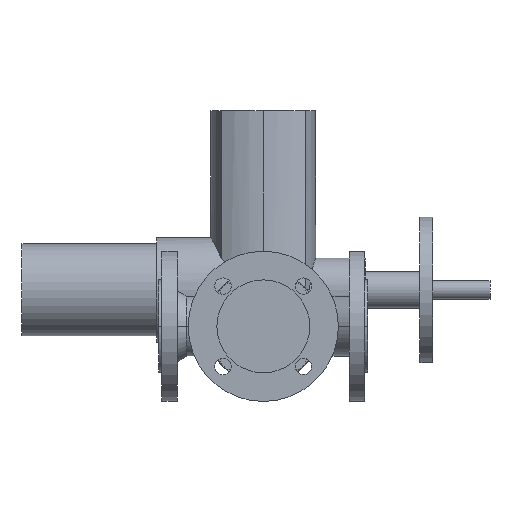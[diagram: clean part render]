
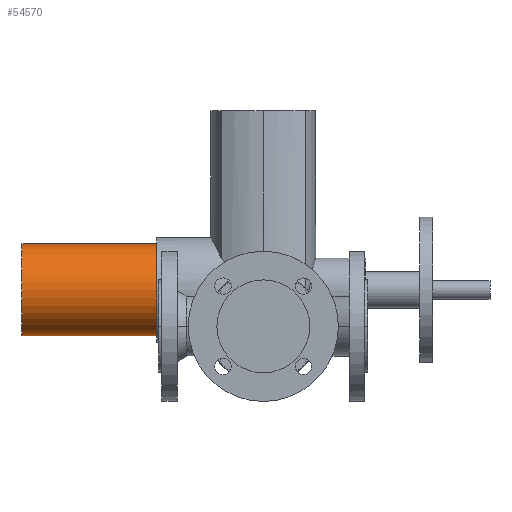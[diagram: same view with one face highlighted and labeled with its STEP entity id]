
A CAD part, front view. The second image highlights one B-rep face of the part: STEP entity #54570.
In plain terms, the highlighted cylindrical face has radius 50.5 mm (diameter 101 mm), a partial arc.
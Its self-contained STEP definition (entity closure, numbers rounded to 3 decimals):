
#54160=CARTESIAN_POINT('',(-76.,607.5,40.));
#54170=DIRECTION('',(1.,0.,0.));
#54180=DIRECTION('',(0.,0.,-1.));
#54190=AXIS2_PLACEMENT_3D('',#54160,#54170,#54180);
#54200=CYLINDRICAL_SURFACE('',#54190,50.5);
#54210=CARTESIAN_POINT('',(-76.,607.5,90.5));
#54220=DIRECTION('',(1.,0.,0.));
#54230=VECTOR('',#54220,1.);
#54240=LINE('',#54210,#54230);
#54250=CARTESIAN_POINT('',(-150.,607.5,90.5));
#54260=VERTEX_POINT('',#54250);
#54270=CARTESIAN_POINT('',(-2.,607.5,90.5));
#54280=VERTEX_POINT('',#54270);
#54290=EDGE_CURVE('',#54260,#54280,#54240,.T.);
#54300=ORIENTED_EDGE('',*,*,#54290,.F.);
#54310=CARTESIAN_POINT('',(-2.,607.5,40.));
#54320=DIRECTION('',(-1.,0.,0.));
#54330=DIRECTION('',(0.,0.,-1.));
#54340=AXIS2_PLACEMENT_3D('',#54310,#54320,#54330);
#54350=CIRCLE('',#54340,50.5);
#54360=CARTESIAN_POINT('',(-2.,607.5,-10.5));
#54370=VERTEX_POINT('',#54360);
#54380=EDGE_CURVE('',#54370,#54280,#54350,.T.);
#54390=ORIENTED_EDGE('',*,*,#54380,.T.);
#54400=CARTESIAN_POINT('',(-76.,607.5,-10.5));
#54410=DIRECTION('',(1.,0.,0.));
#54420=VECTOR('',#54410,1.);
#54430=LINE('',#54400,#54420);
#54440=CARTESIAN_POINT('',(-150.,607.5,-10.5));
#54450=VERTEX_POINT('',#54440);
#54460=EDGE_CURVE('',#54450,#54370,#54430,.T.);
#54470=ORIENTED_EDGE('',*,*,#54460,.T.);
#54480=CARTESIAN_POINT('',(-150.,607.5,40.));
#54490=DIRECTION('',(-1.,0.,0.));
#54500=DIRECTION('',(0.,0.,-1.));
#54510=AXIS2_PLACEMENT_3D('',#54480,#54490,#54500);
#54520=CIRCLE('',#54510,50.5);
#54530=EDGE_CURVE('',#54450,#54260,#54520,.T.);
#54540=ORIENTED_EDGE('',*,*,#54530,.F.);
#54550=EDGE_LOOP('',(#54540,#54470,#54390,#54300));
#54560=FACE_OUTER_BOUND('',#54550,.T.);
#54570=ADVANCED_FACE('',(#54560),#54200,.T.);
